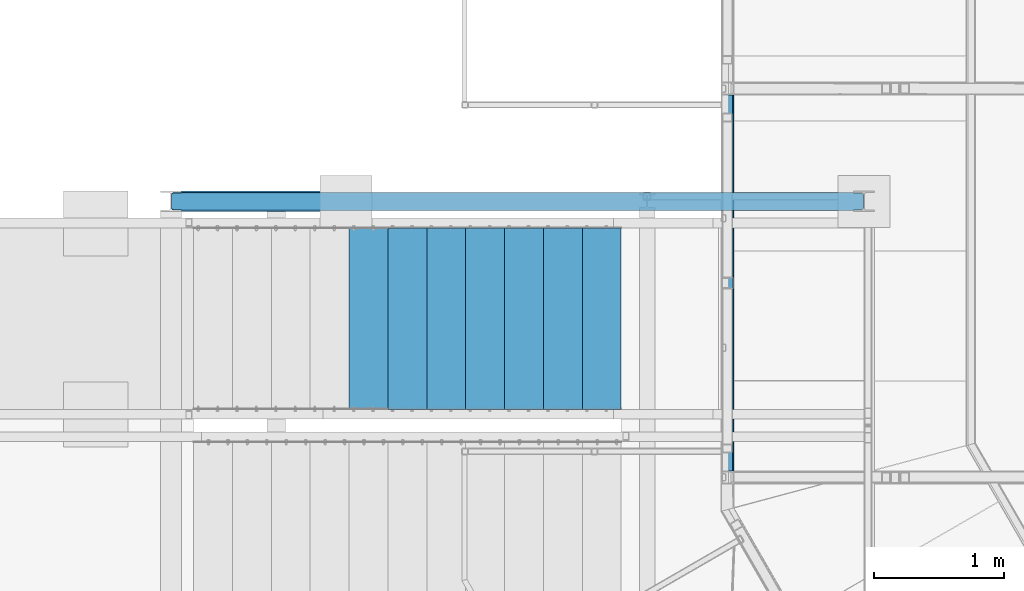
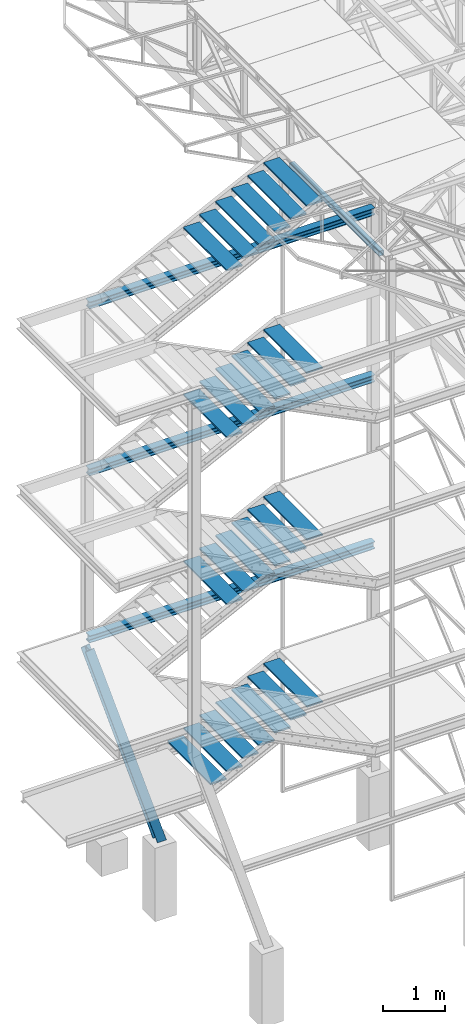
# One storey, part 40 of 132: 30 discrete accessories, 27 elements without a shape of their own.
"""IFC2X3 building model written with IfcOpenShell, lengths in millimetres."""

from ifc_helpers import new_model, si_unit, frame, origin_with_axes, origin_2d_with_axis, place, context, subcontext, project, spatial, polyline, hollow_rectangle, i_section, outline, extrude, boolean, clip, halfspace, material, type_object, element, aggregate, save


model = new_model("IFC2X3")

# Units and contexts
model_context = context("Model", 3, precision=1e-05, world=origin_with_axes())
body_context = subcontext(model_context, "Body", "Model", "MODEL_VIEW")
ifc_project = project(units=[si_unit("LENGTHUNIT", "METRE", prefix="MILLI"), si_unit("AREAUNIT", "SQUARE_METRE"), si_unit("VOLUMEUNIT", "CUBIC_METRE"), si_unit("MASSUNIT", "GRAM", prefix="KILO"), si_unit("TIMEUNIT", "SECOND"), si_unit("PLANEANGLEUNIT", "RADIAN"), si_unit("SOLIDANGLEUNIT", "STERADIAN"), si_unit("THERMODYNAMICTEMPERATUREUNIT", "DEGREE_CELSIUS"), si_unit("LUMINOUSINTENSITYUNIT", "LUMEN")], contexts=[model_context])

# Site, building, storey
site_placement = place(None, origin_with_axes())
site = spatial("IfcSite", under=ifc_project, at=site_placement, Name="Budowa", CompositionType="ELEMENT")
building_placement = place(site_placement, origin_with_axes())
building = spatial("IfcBuilding", under=site, at=building_placement, Name="Undefined", CompositionType="ELEMENT")
storey_placement = place(building_placement, origin_with_axes())
storey = spatial("IfcBuildingStorey", under=building, at=storey_placement, Name="Undefined", CompositionType="ELEMENT", Elevation=0.0)

# Assembly, discrete accessory
assembly_1_placement = place(storey_placement, origin_with_axes())
assembly_1 = element("IfcElementAssembly", 1, at=assembly_1_placement, inside=storey, Name="Steel Assembly", AssemblyPlace="NOTDEFINED", PredefinedType="RIGID_FRAME")
ifc_material_1 = material(Name="STEEL/S235")
discrete_accessory_type_1 = type_object("IfcDiscreteAccessoryType", Name="BEAM")
discrete_accessory_1_placement = place(assembly_1_placement, frame((0.0999999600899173, 11950.0000000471, 12830.0), z_axis=(1.0, 0.0, 0.0), x_axis=(0.0, -1.0, 0.0)))
discrete_accessory_1 = element("IfcDiscreteAccessory", 2, at=discrete_accessory_1_placement, type_object=discrete_accessory_type_1, material=ifc_material_1, Name="BEAM", ObjectType="SHS100*8", context=body_context, shape_type="SweptSolid", body=[
    extrude(hollow_rectangle(XDim=100.0, YDim=100.0, WallThickness=8.0, InnerFilletRadius=8.0, OuterFilletRadius=16.0, at=origin_2d_with_axis()), frame((2900.00000000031, 0.0, 0.0), z_axis=(-1.0, 0.0, 0.0), x_axis=(0.0, -1.0, 0.0)), (0.0, 0.0, 1.0), 2900.0),
])
aggregate(assembly_1, [discrete_accessory_1])

assembly_2_placement = place(storey_placement, origin_with_axes())
assembly_2 = element("IfcElementAssembly", 3, at=assembly_2_placement, inside=storey, Name="Steel Assembly", AssemblyPlace="NOTDEFINED", PredefinedType="RIGID_FRAME")
ifc_material_2 = material(Name="STEEL/S235JR")
discrete_accessory_type_2 = type_object("IfcDiscreteAccessoryType", Name="STOPNIE")
discrete_accessory_2_placement = place(assembly_2_placement, frame((-970.00000008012, 9525.0000000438, 13864.9999999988), z_axis=(0.0, 0.0, -1.0), x_axis=(0.0, 1.0, 0.0)))
discrete_accessory_2 = element("IfcDiscreteAccessory", 4, at=discrete_accessory_2_placement, type_object=discrete_accessory_type_2, material=ifc_material_2, Name="STOPNIE", ObjectType="PL30*300", context=body_context, shape_type="SweptSolid", body=[
    extrude(outline(polyline([(0.0, -150.0), (0.0, 150.0), (1400.0, 150.0), (1400.0, -150.0), (0.0, -150.0)])), frame((0.0, 0.0, -15.0), z_axis=(0.0, 0.0, 1.0), x_axis=(1.0, 0.0, 0.0)), (0.0, 0.0, 1.0), 30.0),
])
aggregate(assembly_2, [discrete_accessory_2])

assembly_3_placement = place(storey_placement, origin_with_axes())
assembly_3 = element("IfcElementAssembly", 5, at=assembly_3_placement, inside=storey, Name="Steel Assembly", AssemblyPlace="NOTDEFINED", PredefinedType="RIGID_FRAME")
discrete_accessory_3_placement = place(assembly_3_placement, frame((-1270.00000008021, 9525.0000000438, 13714.9999999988), z_axis=(0.0, 0.0, -1.0), x_axis=(0.0, 1.0, 0.0)))
discrete_accessory_3 = element("IfcDiscreteAccessory", 6, at=discrete_accessory_3_placement, type_object=discrete_accessory_type_2, material=ifc_material_2, Name="STOPNIE", ObjectType="PL30*300", context=body_context, shape_type="SweptSolid", body=[
    extrude(outline(polyline([(0.0, -150.0), (0.0, 150.0), (1400.0, 150.0), (1400.0, -150.0), (0.0, -150.0)])), frame((0.0, 0.0, -15.0), z_axis=(0.0, 0.0, 1.0), x_axis=(1.0, 0.0, 0.0)), (0.0, 0.0, 1.0), 30.0),
])
aggregate(assembly_3, [discrete_accessory_3])

assembly_4_placement = place(storey_placement, origin_with_axes())
assembly_4 = element("IfcElementAssembly", 7, at=assembly_4_placement, inside=storey, Name="Steel Assembly", AssemblyPlace="NOTDEFINED", PredefinedType="RIGID_FRAME")
discrete_accessory_4_placement = place(assembly_4_placement, frame((-1570.0000000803, 9525.0000000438, 13564.9999999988), z_axis=(0.0, 0.0, -1.0), x_axis=(0.0, 1.0, 0.0)))
discrete_accessory_4 = element("IfcDiscreteAccessory", 8, at=discrete_accessory_4_placement, type_object=discrete_accessory_type_2, material=ifc_material_2, Name="STOPNIE", ObjectType="PL30*300", context=body_context, shape_type="SweptSolid", body=[
    extrude(outline(polyline([(0.0, -150.0), (0.0, 150.0), (1400.0, 150.0), (1400.0, -150.0), (0.0, -150.0)])), frame((0.0, 0.0, -15.0), z_axis=(0.0, 0.0, 1.0), x_axis=(1.0, 0.0, 0.0)), (0.0, 0.0, 1.0), 30.0),
])
aggregate(assembly_4, [discrete_accessory_4])

assembly_5_placement = place(storey_placement, origin_with_axes())
assembly_5 = element("IfcElementAssembly", 9, at=assembly_5_placement, inside=storey, Name="Steel Assembly", AssemblyPlace="NOTDEFINED", PredefinedType="RIGID_FRAME")
discrete_accessory_5_placement = place(assembly_5_placement, frame((-1870.00000008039, 9525.0000000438, 13414.9999999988), z_axis=(0.0, 0.0, -1.0), x_axis=(0.0, 1.0, 0.0)))
discrete_accessory_5 = element("IfcDiscreteAccessory", 10, at=discrete_accessory_5_placement, type_object=discrete_accessory_type_2, material=ifc_material_2, Name="STOPNIE", ObjectType="PL30*300", context=body_context, shape_type="SweptSolid", body=[
    extrude(outline(polyline([(0.0, -150.0), (0.0, 150.0), (1400.0, 150.0), (1400.0, -150.0), (0.0, -150.0)])), frame((0.0, 0.0, -15.0), z_axis=(0.0, 0.0, 1.0), x_axis=(1.0, 0.0, 0.0)), (0.0, 0.0, 1.0), 30.0),
])
aggregate(assembly_5, [discrete_accessory_5])

assembly_6_placement = place(storey_placement, origin_with_axes())
assembly_6 = element("IfcElementAssembly", 11, at=assembly_6_placement, inside=storey, Name="Steel Assembly", AssemblyPlace="NOTDEFINED", PredefinedType="RIGID_FRAME")
discrete_accessory_6_placement = place(assembly_6_placement, frame((-2170.00000008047, 9525.0000000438, 13264.9999999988), z_axis=(0.0, 0.0, -1.0), x_axis=(0.0, 1.0, 0.0)))
discrete_accessory_6 = element("IfcDiscreteAccessory", 12, at=discrete_accessory_6_placement, type_object=discrete_accessory_type_2, material=ifc_material_2, Name="STOPNIE", ObjectType="PL30*300", context=body_context, shape_type="SweptSolid", body=[
    extrude(outline(polyline([(0.0, -150.0), (0.0, 150.0), (1400.0, 150.0), (1400.0, -150.0), (0.0, -150.0)])), frame((0.0, 0.0, -15.0), z_axis=(0.0, 0.0, 1.0), x_axis=(1.0, 0.0, 0.0)), (0.0, 0.0, 1.0), 30.0),
])
aggregate(assembly_6, [discrete_accessory_6])

assembly_7_placement = place(storey_placement, origin_with_axes())
assembly_7 = element("IfcElementAssembly", 13, at=assembly_7_placement, inside=storey, Name="Steel Assembly", AssemblyPlace="NOTDEFINED", PredefinedType="RIGID_FRAME")
discrete_accessory_7_placement = place(assembly_7_placement, frame((-2470.00000008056, 9525.0000000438, 13114.9999999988), z_axis=(0.0, 0.0, -1.0), x_axis=(0.0, 1.0, 0.0)))
discrete_accessory_7 = element("IfcDiscreteAccessory", 14, at=discrete_accessory_7_placement, type_object=discrete_accessory_type_2, material=ifc_material_2, Name="STOPNIE", ObjectType="PL30*300", context=body_context, shape_type="SweptSolid", body=[
    extrude(outline(polyline([(0.0, -150.0), (0.0, 150.0), (1400.0, 150.0), (1400.0, -150.0), (0.0, -150.0)])), frame((0.0, 0.0, -15.0), z_axis=(0.0, 0.0, 1.0), x_axis=(1.0, 0.0, 0.0)), (0.0, 0.0, 1.0), 30.0),
])
aggregate(assembly_7, [discrete_accessory_7])

assembly_8_placement = place(storey_placement, origin_with_axes())
assembly_8 = element("IfcElementAssembly", 15, at=assembly_8_placement, inside=storey, Name="Steel Assembly", AssemblyPlace="NOTDEFINED", PredefinedType="RIGID_FRAME")
discrete_accessory_8_placement = place(assembly_8_placement, frame((-970.000000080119, 9525.0000000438, 10564.9999999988), z_axis=(0.0, 0.0, -1.0), x_axis=(0.0, 1.0, 0.0)))
discrete_accessory_8 = element("IfcDiscreteAccessory", 16, at=discrete_accessory_8_placement, type_object=discrete_accessory_type_2, material=ifc_material_2, Name="STOPNIE", ObjectType="PL30*300", context=body_context, shape_type="SweptSolid", body=[
    extrude(outline(polyline([(0.0, -150.0), (0.0, 150.0), (1400.0, 150.0), (1400.0, -150.0), (0.0, -150.0)])), frame((0.0, 0.0, -15.0), z_axis=(0.0, 0.0, 1.0), x_axis=(1.0, 0.0, 0.0)), (0.0, 0.0, 1.0), 30.0),
])
aggregate(assembly_8, [discrete_accessory_8])

assembly_9_placement = place(storey_placement, origin_with_axes())
assembly_9 = element("IfcElementAssembly", 17, at=assembly_9_placement, inside=storey, Name="Steel Assembly", AssemblyPlace="NOTDEFINED", PredefinedType="RIGID_FRAME")
discrete_accessory_9_placement = place(assembly_9_placement, frame((-1270.00000008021, 9525.0000000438, 10414.9999999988), z_axis=(0.0, 0.0, -1.0), x_axis=(0.0, 1.0, 0.0)))
discrete_accessory_9 = element("IfcDiscreteAccessory", 18, at=discrete_accessory_9_placement, type_object=discrete_accessory_type_2, material=ifc_material_2, Name="STOPNIE", ObjectType="PL30*300", context=body_context, shape_type="SweptSolid", body=[
    extrude(outline(polyline([(0.0, -150.0), (0.0, 150.0), (1400.0, 150.0), (1400.0, -150.0), (0.0, -150.0)])), frame((0.0, 0.0, -15.0), z_axis=(0.0, 0.0, 1.0), x_axis=(1.0, 0.0, 0.0)), (0.0, 0.0, 1.0), 30.0),
])
aggregate(assembly_9, [discrete_accessory_9])

assembly_10_placement = place(storey_placement, origin_with_axes())
assembly_10 = element("IfcElementAssembly", 19, at=assembly_10_placement, inside=storey, Name="Steel Assembly", AssemblyPlace="NOTDEFINED", PredefinedType="RIGID_FRAME")
discrete_accessory_10_placement = place(assembly_10_placement, frame((-1570.0000000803, 9525.0000000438, 10264.9999999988), z_axis=(0.0, 0.0, -1.0), x_axis=(0.0, 1.0, 0.0)))
discrete_accessory_10 = element("IfcDiscreteAccessory", 20, at=discrete_accessory_10_placement, type_object=discrete_accessory_type_2, material=ifc_material_2, Name="STOPNIE", ObjectType="PL30*300", context=body_context, shape_type="SweptSolid", body=[
    extrude(outline(polyline([(0.0, -150.0), (0.0, 150.0), (1400.0, 150.0), (1400.0, -150.0), (0.0, -150.0)])), frame((0.0, 0.0, -15.0), z_axis=(0.0, 0.0, 1.0), x_axis=(1.0, 0.0, 0.0)), (0.0, 0.0, 1.0), 30.0),
])
aggregate(assembly_10, [discrete_accessory_10])

assembly_11_placement = place(storey_placement, origin_with_axes())
assembly_11 = element("IfcElementAssembly", 21, at=assembly_11_placement, inside=storey, Name="Steel Assembly", AssemblyPlace="NOTDEFINED", PredefinedType="RIGID_FRAME")
discrete_accessory_11_placement = place(assembly_11_placement, frame((-1870.00000008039, 9525.0000000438, 10114.9999999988), z_axis=(0.0, 0.0, -1.0), x_axis=(0.0, 1.0, 0.0)))
discrete_accessory_11 = element("IfcDiscreteAccessory", 22, at=discrete_accessory_11_placement, type_object=discrete_accessory_type_2, material=ifc_material_2, Name="STOPNIE", ObjectType="PL30*300", context=body_context, shape_type="SweptSolid", body=[
    extrude(outline(polyline([(0.0, -150.0), (0.0, 150.0), (1400.0, 150.0), (1400.0, -150.0), (0.0, -150.0)])), frame((0.0, 0.0, -15.0), z_axis=(0.0, 0.0, 1.0), x_axis=(1.0, 0.0, 0.0)), (0.0, 0.0, 1.0), 30.0),
])
aggregate(assembly_11, [discrete_accessory_11])

assembly_12_placement = place(storey_placement, origin_with_axes())
assembly_12 = element("IfcElementAssembly", 23, at=assembly_12_placement, inside=storey, Name="Steel Assembly", AssemblyPlace="NOTDEFINED", PredefinedType="RIGID_FRAME")
discrete_accessory_12_placement = place(assembly_12_placement, frame((-2170.00000008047, 9525.0000000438, 9964.99999999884), z_axis=(0.0, 0.0, -1.0), x_axis=(0.0, 1.0, 0.0)))
discrete_accessory_12 = element("IfcDiscreteAccessory", 24, at=discrete_accessory_12_placement, type_object=discrete_accessory_type_2, material=ifc_material_2, Name="STOPNIE", ObjectType="PL30*300", context=body_context, shape_type="SweptSolid", body=[
    extrude(outline(polyline([(0.0, -150.0), (0.0, 150.0), (1400.0, 150.0), (1400.0, -150.0), (0.0, -150.0)])), frame((0.0, 0.0, -15.0), z_axis=(0.0, 0.0, 1.0), x_axis=(1.0, 0.0, 0.0)), (0.0, 0.0, 1.0), 30.0),
])
aggregate(assembly_12, [discrete_accessory_12])

assembly_13_placement = place(storey_placement, origin_with_axes())
assembly_13 = element("IfcElementAssembly", 25, at=assembly_13_placement, inside=storey, Name="Steel Assembly", AssemblyPlace="NOTDEFINED", PredefinedType="RIGID_FRAME")
discrete_accessory_13_placement = place(assembly_13_placement, frame((-2470.00000008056, 9525.0000000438, 9814.99999999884), z_axis=(0.0, 0.0, -1.0), x_axis=(0.0, 1.0, 0.0)))
discrete_accessory_13 = element("IfcDiscreteAccessory", 26, at=discrete_accessory_13_placement, type_object=discrete_accessory_type_2, material=ifc_material_2, Name="STOPNIE", ObjectType="PL30*300", context=body_context, shape_type="SweptSolid", body=[
    extrude(outline(polyline([(0.0, -150.0), (0.0, 150.0), (1400.0, 150.0), (1400.0, -150.0), (0.0, -150.0)])), frame((0.0, 0.0, -15.0), z_axis=(0.0, 0.0, 1.0), x_axis=(1.0, 0.0, 0.0)), (0.0, 0.0, 1.0), 30.0),
])
aggregate(assembly_13, [discrete_accessory_13])

assembly_14_placement = place(storey_placement, origin_with_axes())
assembly_14 = element("IfcElementAssembly", 27, at=assembly_14_placement, inside=storey, Name="Steel Assembly", AssemblyPlace="NOTDEFINED", PredefinedType="RIGID_FRAME")
discrete_accessory_14_placement = place(assembly_14_placement, frame((-970.000000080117, 9525.0000000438, 7264.99999999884), z_axis=(0.0, 0.0, -1.0), x_axis=(0.0, 1.0, 0.0)))
discrete_accessory_14 = element("IfcDiscreteAccessory", 28, at=discrete_accessory_14_placement, type_object=discrete_accessory_type_2, material=ifc_material_2, Name="STOPNIE", ObjectType="PL30*300", context=body_context, shape_type="SweptSolid", body=[
    extrude(outline(polyline([(0.0, -150.0), (0.0, 150.0), (1400.0, 150.0), (1400.0, -150.0), (0.0, -150.0)])), frame((0.0, 0.0, -15.0), z_axis=(0.0, 0.0, 1.0), x_axis=(1.0, 0.0, 0.0)), (0.0, 0.0, 1.0), 30.0),
])
aggregate(assembly_14, [discrete_accessory_14])

assembly_15_placement = place(storey_placement, origin_with_axes())
assembly_15 = element("IfcElementAssembly", 29, at=assembly_15_placement, inside=storey, Name="Steel Assembly", AssemblyPlace="NOTDEFINED", PredefinedType="RIGID_FRAME")
discrete_accessory_15_placement = place(assembly_15_placement, frame((-1270.00000008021, 9525.0000000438, 7114.99999999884), z_axis=(0.0, 0.0, -1.0), x_axis=(0.0, 1.0, 0.0)))
discrete_accessory_15 = element("IfcDiscreteAccessory", 30, at=discrete_accessory_15_placement, type_object=discrete_accessory_type_2, material=ifc_material_2, Name="STOPNIE", ObjectType="PL30*300", context=body_context, shape_type="SweptSolid", body=[
    extrude(outline(polyline([(0.0, -150.0), (0.0, 150.0), (1400.0, 150.0), (1400.0, -150.0), (0.0, -150.0)])), frame((0.0, 0.0, -15.0), z_axis=(0.0, 0.0, 1.0), x_axis=(1.0, 0.0, 0.0)), (0.0, 0.0, 1.0), 30.0),
])
aggregate(assembly_15, [discrete_accessory_15])

assembly_16_placement = place(storey_placement, origin_with_axes())
assembly_16 = element("IfcElementAssembly", 31, at=assembly_16_placement, inside=storey, Name="Steel Assembly", AssemblyPlace="NOTDEFINED", PredefinedType="RIGID_FRAME")
discrete_accessory_16_placement = place(assembly_16_placement, frame((-1570.00000008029, 9525.0000000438, 6964.99999999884), z_axis=(0.0, 0.0, -1.0), x_axis=(0.0, 1.0, 0.0)))
discrete_accessory_16 = element("IfcDiscreteAccessory", 32, at=discrete_accessory_16_placement, type_object=discrete_accessory_type_2, material=ifc_material_2, Name="STOPNIE", ObjectType="PL30*300", context=body_context, shape_type="SweptSolid", body=[
    extrude(outline(polyline([(0.0, -150.0), (0.0, 150.0), (1400.0, 150.0), (1400.0, -150.0), (0.0, -150.0)])), frame((0.0, 0.0, -15.0), z_axis=(0.0, 0.0, 1.0), x_axis=(1.0, 0.0, 0.0)), (0.0, 0.0, 1.0), 30.0),
])
aggregate(assembly_16, [discrete_accessory_16])

assembly_17_placement = place(storey_placement, origin_with_axes())
assembly_17 = element("IfcElementAssembly", 33, at=assembly_17_placement, inside=storey, Name="Steel Assembly", AssemblyPlace="NOTDEFINED", PredefinedType="RIGID_FRAME")
discrete_accessory_17_placement = place(assembly_17_placement, frame((-1870.00000008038, 9525.0000000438, 6814.99999999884), z_axis=(0.0, 0.0, -1.0), x_axis=(0.0, 1.0, 0.0)))
discrete_accessory_17 = element("IfcDiscreteAccessory", 34, at=discrete_accessory_17_placement, type_object=discrete_accessory_type_2, material=ifc_material_2, Name="STOPNIE", ObjectType="PL30*300", context=body_context, shape_type="SweptSolid", body=[
    extrude(outline(polyline([(0.0, -150.0), (0.0, 150.0), (1400.0, 150.0), (1400.0, -150.0), (0.0, -150.0)])), frame((0.0, 0.0, -15.0), z_axis=(0.0, 0.0, 1.0), x_axis=(1.0, 0.0, 0.0)), (0.0, 0.0, 1.0), 30.0),
])
aggregate(assembly_17, [discrete_accessory_17])

assembly_18_placement = place(storey_placement, origin_with_axes())
assembly_18 = element("IfcElementAssembly", 35, at=assembly_18_placement, inside=storey, Name="Steel Assembly", AssemblyPlace="NOTDEFINED", PredefinedType="RIGID_FRAME")
discrete_accessory_18_placement = place(assembly_18_placement, frame((-2170.00000008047, 9525.0000000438, 6664.99999999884), z_axis=(0.0, 0.0, -1.0), x_axis=(0.0, 1.0, 0.0)))
discrete_accessory_18 = element("IfcDiscreteAccessory", 36, at=discrete_accessory_18_placement, type_object=discrete_accessory_type_2, material=ifc_material_2, Name="STOPNIE", ObjectType="PL30*300", context=body_context, shape_type="SweptSolid", body=[
    extrude(outline(polyline([(0.0, -150.0), (0.0, 150.0), (1400.0, 150.0), (1400.0, -150.0), (0.0, -150.0)])), frame((0.0, 0.0, -15.0), z_axis=(0.0, 0.0, 1.0), x_axis=(1.0, 0.0, 0.0)), (0.0, 0.0, 1.0), 30.0),
])
aggregate(assembly_18, [discrete_accessory_18])

assembly_19_placement = place(storey_placement, origin_with_axes())
assembly_19 = element("IfcElementAssembly", 37, at=assembly_19_placement, inside=storey, Name="Steel Assembly", AssemblyPlace="NOTDEFINED", PredefinedType="RIGID_FRAME")
discrete_accessory_19_placement = place(assembly_19_placement, frame((-2470.00000008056, 9525.0000000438, 6514.99999999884), z_axis=(0.0, 0.0, -1.0), x_axis=(0.0, 1.0, 0.0)))
discrete_accessory_19 = element("IfcDiscreteAccessory", 38, at=discrete_accessory_19_placement, type_object=discrete_accessory_type_2, material=ifc_material_2, Name="STOPNIE", ObjectType="PL30*300", context=body_context, shape_type="SweptSolid", body=[
    extrude(outline(polyline([(0.0, -150.0), (0.0, 150.0), (1400.0, 150.0), (1400.0, -150.0), (0.0, -150.0)])), frame((0.0, 0.0, -15.0), z_axis=(0.0, 0.0, 1.0), x_axis=(1.0, 0.0, 0.0)), (0.0, 0.0, 1.0), 30.0),
])
aggregate(assembly_19, [discrete_accessory_19])

assembly_20_placement = place(storey_placement, origin_with_axes())
assembly_20 = element("IfcElementAssembly", 39, at=assembly_20_placement, inside=storey, Name="Steel Assembly", AssemblyPlace="NOTDEFINED", PredefinedType="RIGID_FRAME")
discrete_accessory_20_placement = place(assembly_20_placement, frame((-970.000000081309, 9525.0000000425, 3964.99999999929), z_axis=(0.0, 0.0, -1.0), x_axis=(0.0, 1.0, 0.0)))
discrete_accessory_20 = element("IfcDiscreteAccessory", 40, at=discrete_accessory_20_placement, type_object=discrete_accessory_type_2, material=ifc_material_2, Name="STOPNIE", ObjectType="PL30*300", context=body_context, shape_type="SweptSolid", body=[
    extrude(outline(polyline([(0.0, -150.0), (0.0, 150.0), (1400.0, 150.0), (1400.0, -150.0), (0.0, -150.0)])), frame((0.0, 0.0, -15.0), z_axis=(0.0, 0.0, 1.0), x_axis=(1.0, 0.0, 0.0)), (0.0, 0.0, 1.0), 30.0),
])
aggregate(assembly_20, [discrete_accessory_20])

assembly_21_placement = place(storey_placement, origin_with_axes())
assembly_21 = element("IfcElementAssembly", 41, at=assembly_21_placement, inside=storey, Name="Steel Assembly", AssemblyPlace="NOTDEFINED", PredefinedType="RIGID_FRAME")
discrete_accessory_21_placement = place(assembly_21_placement, frame((-1270.00000008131, 9525.00000004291, 3814.99999999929), z_axis=(0.0, 0.0, -1.0), x_axis=(0.0, 1.0, 0.0)))
discrete_accessory_21 = element("IfcDiscreteAccessory", 42, at=discrete_accessory_21_placement, type_object=discrete_accessory_type_2, material=ifc_material_2, Name="STOPNIE", ObjectType="PL30*300", context=body_context, shape_type="SweptSolid", body=[
    extrude(outline(polyline([(0.0, -150.0), (0.0, 150.0), (1400.0, 150.0), (1400.0, -150.0), (0.0, -150.0)])), frame((0.0, 0.0, -15.0), z_axis=(0.0, 0.0, 1.0), x_axis=(1.0, 0.0, 0.0)), (0.0, 0.0, 1.0), 30.0),
])
aggregate(assembly_21, [discrete_accessory_21])

assembly_22_placement = place(storey_placement, origin_with_axes())
assembly_22 = element("IfcElementAssembly", 43, at=assembly_22_placement, inside=storey, Name="Steel Assembly", AssemblyPlace="NOTDEFINED", PredefinedType="RIGID_FRAME")
discrete_accessory_22_placement = place(assembly_22_placement, frame((-1570.00000008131, 9525.00000004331, 3664.99999999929), z_axis=(0.0, 0.0, -1.0), x_axis=(0.0, 1.0, 0.0)))
discrete_accessory_22 = element("IfcDiscreteAccessory", 44, at=discrete_accessory_22_placement, type_object=discrete_accessory_type_2, material=ifc_material_2, Name="STOPNIE", ObjectType="PL30*300", context=body_context, shape_type="SweptSolid", body=[
    extrude(outline(polyline([(0.0, -150.0), (0.0, 150.0), (1400.0, 150.0), (1400.0, -150.0), (0.0, -150.0)])), frame((0.0, 0.0, -15.0), z_axis=(0.0, 0.0, 1.0), x_axis=(1.0, 0.0, 0.0)), (0.0, 0.0, 1.0), 30.0),
])
aggregate(assembly_22, [discrete_accessory_22])

assembly_23_placement = place(storey_placement, origin_with_axes())
assembly_23 = element("IfcElementAssembly", 45, at=assembly_23_placement, inside=storey, Name="Steel Assembly", AssemblyPlace="NOTDEFINED", PredefinedType="RIGID_FRAME")
discrete_accessory_23_placement = place(assembly_23_placement, frame((-1870.00000008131, 9525.00000004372, 3514.99999999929), z_axis=(0.0, 0.0, -1.0), x_axis=(0.0, 1.0, 0.0)))
discrete_accessory_23 = element("IfcDiscreteAccessory", 46, at=discrete_accessory_23_placement, type_object=discrete_accessory_type_2, material=ifc_material_2, Name="STOPNIE", ObjectType="PL30*300", context=body_context, shape_type="SweptSolid", body=[
    extrude(outline(polyline([(0.0, -150.0), (0.0, 150.0), (1400.0, 150.0), (1400.0, -150.0), (0.0, -150.0)])), frame((0.0, 0.0, -15.0), z_axis=(0.0, 0.0, 1.0), x_axis=(1.0, 0.0, 0.0)), (0.0, 0.0, 1.0), 30.0),
])
aggregate(assembly_23, [discrete_accessory_23])

assembly_24_placement = place(storey_placement, origin_with_axes())
assembly_24 = element("IfcElementAssembly", 47, at=assembly_24_placement, inside=storey, Name="Steel Assembly", AssemblyPlace="NOTDEFINED", PredefinedType="RIGID_FRAME")
discrete_accessory_24_placement = place(assembly_24_placement, frame((-2170.00000008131, 9525.00000004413, 3364.99999999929), z_axis=(0.0, 0.0, -1.0), x_axis=(0.0, 1.0, 0.0)))
discrete_accessory_24 = element("IfcDiscreteAccessory", 48, at=discrete_accessory_24_placement, type_object=discrete_accessory_type_2, material=ifc_material_2, Name="STOPNIE", ObjectType="PL30*300", context=body_context, shape_type="SweptSolid", body=[
    extrude(outline(polyline([(0.0, -150.0), (0.0, 150.0), (1400.0, 150.0), (1400.0, -150.0), (0.0, -150.0)])), frame((0.0, 0.0, -15.0), z_axis=(0.0, 0.0, 1.0), x_axis=(1.0, 0.0, 0.0)), (0.0, 0.0, 1.0), 30.0),
])
aggregate(assembly_24, [discrete_accessory_24])

assembly_25_placement = place(storey_placement, origin_with_axes())
assembly_25 = element("IfcElementAssembly", 49, at=assembly_25_placement, inside=storey, Name="Steel Assembly", AssemblyPlace="NOTDEFINED", PredefinedType="RIGID_FRAME")
discrete_accessory_25_placement = place(assembly_25_placement, frame((-2470.00000008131, 9525.00000004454, 3214.99999999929), z_axis=(0.0, 0.0, -1.0), x_axis=(0.0, 1.0, 0.0)))
discrete_accessory_25 = element("IfcDiscreteAccessory", 50, at=discrete_accessory_25_placement, type_object=discrete_accessory_type_2, material=ifc_material_2, Name="STOPNIE", ObjectType="PL30*300", context=body_context, shape_type="SweptSolid", body=[
    extrude(outline(polyline([(0.0, -150.0), (0.0, 150.0), (1400.0, 150.0), (1400.0, -150.0), (0.0, -150.0)])), frame((0.0, 0.0, -15.0), z_axis=(0.0, 0.0, 1.0), x_axis=(1.0, 0.0, 0.0)), (0.0, 0.0, 1.0), 30.0),
])
aggregate(assembly_25, [discrete_accessory_25])

assembly_26_placement = place(storey_placement, origin_with_axes())
assembly_26 = element("IfcElementAssembly", 51, at=assembly_26_placement, inside=storey, Name="Steel Assembly", AssemblyPlace="NOTDEFINED", PredefinedType="RIGID_FRAME")
discrete_accessory_26_placement = place(assembly_26_placement, frame((-2770.00000008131, 9525.00000004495, 3064.99999999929), z_axis=(0.0, 0.0, -1.0), x_axis=(0.0, 1.0, 0.0)))
discrete_accessory_26 = element("IfcDiscreteAccessory", 52, at=discrete_accessory_26_placement, type_object=discrete_accessory_type_2, material=ifc_material_2, Name="STOPNIE", ObjectType="PL30*300", context=body_context, shape_type="SweptSolid", body=[
    extrude(outline(polyline([(0.0, -150.0), (0.0, 150.0), (1400.0, 150.0), (1400.0, -150.0), (0.0, -150.0)])), frame((0.0, 0.0, -15.0), z_axis=(0.0, 0.0, 1.0), x_axis=(1.0, 0.0, 0.0)), (0.0, 0.0, 1.0), 30.0),
])
aggregate(assembly_26, [discrete_accessory_26])

# Assembly, discrete accessories
assembly_27_placement = place(storey_placement, origin_with_axes())
assembly_27 = element("IfcElementAssembly", 53, at=assembly_27_placement, inside=storey, Name="Steel Assembly", AssemblyPlace="NOTDEFINED", PredefinedType="RIGID_FRAME")
discrete_accessory_type_3 = type_object("IfcDiscreteAccessoryType", Name="COLUMN")
discrete_accessory_27_placement = place(assembly_27_placement, frame((-4215.00000008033, 11130.000000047, 12070.0), z_axis=(0.0, 0.0, 1.0), x_axis=(1.0, 0.0, 0.0)))
solid_1 = boolean("DIFFERENCE", boolean("DIFFERENCE", boolean("DIFFERENCE", boolean("DIFFERENCE", boolean("DIFFERENCE", boolean("DIFFERENCE", boolean("DIFFERENCE", boolean("DIFFERENCE", extrude(i_section(OverallWidth=140.0, OverallDepth=140.0, WebThickness=7.0, FlangeThickness=12.0, FilletRadius=12.0, at=origin_2d_with_axis()), frame((5265.0, 0.0, 0.0), z_axis=(-1.0, 0.0, 0.0), x_axis=(0.0, -1.0, 0.0)), (0.0, 0.0, 1.0), 5340.0), extrude(outline(polyline([(0.0, 0.0), (16.0, 0.0), (16.0, 10.8000001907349), (0.699999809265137, 26.1000003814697), (0.0, 26.1000003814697), (0.0, 0.0)])), frame((-86.0999999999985, -67.0, 75.0), z_axis=(0.0, 0.0, -1.0), x_axis=(0.0, 1.0, 0.0)), (0.0, 0.0, 1.0), 150.0)), extrude(outline(polyline([(0.0, 0.0), (16.0, 0.0), (16.0, 26.1000003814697), (15.3000001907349, 26.1000003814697), (0.0, 10.8000001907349), (0.0, 0.0)])), frame((-86.0999999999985, 51.0, 75.0), z_axis=(0.0, 0.0, -1.0), x_axis=(0.0, 1.0, 0.0)), (0.0, 0.0, 1.0), 150.0)), extrude(outline(polyline([(0.0, 0.0), (85.0, 0.0), (85.0, 14.0), (0.0, 14.0), (0.0, 0.0)])), frame((-84.9999999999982, 66.0, -80.0), z_axis=(0.0, 0.0, 1.0), x_axis=(1.0, 0.0, 0.0)), (0.0, 0.0, 1.0), 160.0)), extrude(outline(polyline([(0.0, 0.0), (85.0, 0.0), (85.0, 14.0), (0.0, 14.0), (0.0, 0.0)])), frame((-84.9999999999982, -66.0, 80.0), z_axis=(0.0, 0.0, -1.0), x_axis=(1.0, 0.0, 0.0)), (0.0, 0.0, 1.0), 160.0)), extrude(outline(polyline([(0.0, 0.0), (16.0, 0.0), (16.0, 10.8000001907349), (0.699999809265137, 26.1000003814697), (0.0, 26.1000003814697), (0.0, 0.0)])), frame((5276.1, 67.0, 75.0), z_axis=(0.0, 0.0, -1.0), x_axis=(0.0, -1.0, 0.0)), (0.0, 0.0, 1.0), 150.0)), extrude(outline(polyline([(0.0, 0.0), (16.0, 0.0), (16.0, 26.1000003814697), (15.3000001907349, 26.1000003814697), (0.0, 10.8000001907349), (0.0, 0.0)])), frame((5276.1, -51.0, 75.0), z_axis=(0.0, 0.0, -1.0), x_axis=(0.0, -1.0, 0.0)), (0.0, 0.0, 1.0), 150.0)), extrude(outline(polyline([(0.0, 0.0), (85.0, 0.0), (85.0, 14.0), (0.0, 14.0), (0.0, 0.0)])), frame((5275.0, -66.0, -80.0), z_axis=(0.0, 0.0, 1.0), x_axis=(-1.0, 0.0, 0.0)), (0.0, 0.0, 1.0), 160.0)), extrude(outline(polyline([(0.0, 0.0), (85.0, 0.0), (85.0, 14.0), (0.0, 14.0), (0.0, 0.0)])), frame((5275.0, 66.0, 80.0), z_axis=(0.0, 0.0, -1.0), x_axis=(-1.0, 0.0, 0.0)), (0.0, 0.0, 1.0), 160.0))
discrete_accessory_27 = element("IfcDiscreteAccessory", 54, at=discrete_accessory_27_placement, type_object=discrete_accessory_type_3, material=ifc_material_1, Name="COLUMN", ObjectType="HEB140", context=body_context, shape_type="CSG", body=[
    boolean("DIFFERENCE", boolean("DIFFERENCE", solid_1, halfspace(frame((5265.0, 70.0, 1070.0), z_axis=(1.0, 0.0, 0.0), x_axis=(0.0, 1.0, 0.0)), False)), halfspace(frame((-74.9999999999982, -70.0, 1070.0), z_axis=(-1.0, 0.0, 0.0), x_axis=(0.0, -1.0, 0.0)), False)),
])
discrete_accessory_28_placement = place(assembly_27_placement, frame((-4215.00000008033, 11130.000000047, 8770.0), z_axis=(0.0, 0.0, 1.0), x_axis=(1.0, 0.0, 0.0)))
solid_2 = boolean("DIFFERENCE", boolean("DIFFERENCE", boolean("DIFFERENCE", boolean("DIFFERENCE", boolean("DIFFERENCE", boolean("DIFFERENCE", boolean("DIFFERENCE", boolean("DIFFERENCE", extrude(i_section(OverallWidth=140.0, OverallDepth=140.0, WebThickness=7.0, FlangeThickness=12.0, FilletRadius=12.0, at=origin_2d_with_axis()), frame((5265.0, 0.0, 0.0), z_axis=(-1.0, 0.0, 0.0), x_axis=(0.0, -1.0, 0.0)), (0.0, 0.0, 1.0), 5340.0), extrude(outline(polyline([(0.0, 0.0), (16.0, 0.0), (16.0, 10.8000001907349), (0.699999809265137, 26.1000003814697), (0.0, 26.1000003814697), (0.0, 0.0)])), frame((-86.0999999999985, -67.0, 75.0), z_axis=(0.0, 0.0, -1.0), x_axis=(0.0, 1.0, 0.0)), (0.0, 0.0, 1.0), 150.0)), extrude(outline(polyline([(0.0, 0.0), (16.0, 0.0), (16.0, 26.1000003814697), (15.3000001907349, 26.1000003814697), (0.0, 10.8000001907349), (0.0, 0.0)])), frame((-86.0999999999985, 51.0, 75.0), z_axis=(0.0, 0.0, -1.0), x_axis=(0.0, 1.0, 0.0)), (0.0, 0.0, 1.0), 150.0)), extrude(outline(polyline([(0.0, 0.0), (85.0, 0.0), (85.0, 14.0), (0.0, 14.0), (0.0, 0.0)])), frame((-84.9999999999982, 66.0, -80.0), z_axis=(0.0, 0.0, 1.0), x_axis=(1.0, 0.0, 0.0)), (0.0, 0.0, 1.0), 160.0)), extrude(outline(polyline([(0.0, 0.0), (85.0, 0.0), (85.0, 14.0), (0.0, 14.0), (0.0, 0.0)])), frame((-84.9999999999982, -66.0, 80.0), z_axis=(0.0, 0.0, -1.0), x_axis=(1.0, 0.0, 0.0)), (0.0, 0.0, 1.0), 160.0)), extrude(outline(polyline([(0.0, 0.0), (16.0, 0.0), (16.0, 10.8000001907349), (0.699999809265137, 26.1000003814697), (0.0, 26.1000003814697), (0.0, 0.0)])), frame((5276.1, 67.0, 75.0), z_axis=(0.0, 0.0, -1.0), x_axis=(0.0, -1.0, 0.0)), (0.0, 0.0, 1.0), 150.0)), extrude(outline(polyline([(0.0, 0.0), (16.0, 0.0), (16.0, 26.1000003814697), (15.3000001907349, 26.1000003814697), (0.0, 10.8000001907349), (0.0, 0.0)])), frame((5276.1, -51.0, 75.0), z_axis=(0.0, 0.0, -1.0), x_axis=(0.0, -1.0, 0.0)), (0.0, 0.0, 1.0), 150.0)), extrude(outline(polyline([(0.0, 0.0), (85.0, 0.0), (85.0, 14.0), (0.0, 14.0), (0.0, 0.0)])), frame((5275.0, -66.0, -80.0), z_axis=(0.0, 0.0, 1.0), x_axis=(-1.0, 0.0, 0.0)), (0.0, 0.0, 1.0), 160.0)), extrude(outline(polyline([(0.0, 0.0), (85.0, 0.0), (85.0, 14.0), (0.0, 14.0), (0.0, 0.0)])), frame((5275.0, 66.0, 80.0), z_axis=(0.0, 0.0, -1.0), x_axis=(-1.0, 0.0, 0.0)), (0.0, 0.0, 1.0), 160.0))
discrete_accessory_28 = element("IfcDiscreteAccessory", 55, at=discrete_accessory_28_placement, type_object=discrete_accessory_type_3, material=ifc_material_1, Name="COLUMN", ObjectType="HEB140", context=body_context, shape_type="CSG", body=[
    boolean("DIFFERENCE", boolean("DIFFERENCE", solid_2, halfspace(frame((5265.0, 70.0, 1070.0), z_axis=(1.0, 0.0, 0.0), x_axis=(0.0, 1.0, 0.0)), False)), halfspace(frame((-74.9999999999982, -70.0, 1070.0), z_axis=(-1.0, 0.0, 0.0), x_axis=(0.0, -1.0, 0.0)), False)),
])
discrete_accessory_29_placement = place(assembly_27_placement, frame((-4215.00000008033, 11130.000000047, 5470.0), z_axis=(0.0, 0.0, 1.0), x_axis=(1.0, 0.0, 0.0)))
solid_3 = boolean("DIFFERENCE", boolean("DIFFERENCE", boolean("DIFFERENCE", boolean("DIFFERENCE", boolean("DIFFERENCE", boolean("DIFFERENCE", boolean("DIFFERENCE", boolean("DIFFERENCE", extrude(i_section(OverallWidth=140.0, OverallDepth=140.0, WebThickness=7.0, FlangeThickness=12.0, FilletRadius=12.0, at=origin_2d_with_axis()), frame((5265.0, 0.0, 0.0), z_axis=(-1.0, 0.0, 0.0), x_axis=(0.0, -1.0, 0.0)), (0.0, 0.0, 1.0), 5340.0), extrude(outline(polyline([(0.0, 0.0), (16.0, 0.0), (16.0, 10.8000001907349), (0.699999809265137, 26.1000003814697), (0.0, 26.1000003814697), (0.0, 0.0)])), frame((-86.0999999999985, -67.0, 75.0), z_axis=(0.0, 0.0, -1.0), x_axis=(0.0, 1.0, 0.0)), (0.0, 0.0, 1.0), 150.0)), extrude(outline(polyline([(0.0, 0.0), (16.0, 0.0), (16.0, 26.1000003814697), (15.3000001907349, 26.1000003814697), (0.0, 10.8000001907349), (0.0, 0.0)])), frame((-86.0999999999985, 51.0, 75.0), z_axis=(0.0, 0.0, -1.0), x_axis=(0.0, 1.0, 0.0)), (0.0, 0.0, 1.0), 150.0)), extrude(outline(polyline([(0.0, 0.0), (85.0, 0.0), (85.0, 14.0), (0.0, 14.0), (0.0, 0.0)])), frame((-84.9999999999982, 66.0, -80.0), z_axis=(0.0, 0.0, 1.0), x_axis=(1.0, 0.0, 0.0)), (0.0, 0.0, 1.0), 160.0)), extrude(outline(polyline([(0.0, 0.0), (85.0, 0.0), (85.0, 14.0), (0.0, 14.0), (0.0, 0.0)])), frame((-84.9999999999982, -66.0, 80.0), z_axis=(0.0, 0.0, -1.0), x_axis=(1.0, 0.0, 0.0)), (0.0, 0.0, 1.0), 160.0)), extrude(outline(polyline([(0.0, 0.0), (16.0, 0.0), (16.0, 10.8000001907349), (0.699999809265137, 26.1000003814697), (0.0, 26.1000003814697), (0.0, 0.0)])), frame((5276.1, 67.0, 75.0), z_axis=(0.0, 0.0, -1.0), x_axis=(0.0, -1.0, 0.0)), (0.0, 0.0, 1.0), 150.0)), extrude(outline(polyline([(0.0, 0.0), (16.0, 0.0), (16.0, 26.1000003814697), (15.3000001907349, 26.1000003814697), (0.0, 10.8000001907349), (0.0, 0.0)])), frame((5276.1, -51.0, 75.0), z_axis=(0.0, 0.0, -1.0), x_axis=(0.0, -1.0, 0.0)), (0.0, 0.0, 1.0), 150.0)), extrude(outline(polyline([(0.0, 0.0), (85.0, 0.0), (85.0, 14.0), (0.0, 14.0), (0.0, 0.0)])), frame((5275.0, -66.0, -80.0), z_axis=(0.0, 0.0, 1.0), x_axis=(-1.0, 0.0, 0.0)), (0.0, 0.0, 1.0), 160.0)), extrude(outline(polyline([(0.0, 0.0), (85.0, 0.0), (85.0, 14.0), (0.0, 14.0), (0.0, 0.0)])), frame((5275.0, 66.0, 80.0), z_axis=(0.0, 0.0, -1.0), x_axis=(-1.0, 0.0, 0.0)), (0.0, 0.0, 1.0), 160.0))
discrete_accessory_29 = element("IfcDiscreteAccessory", 56, at=discrete_accessory_29_placement, type_object=discrete_accessory_type_3, material=ifc_material_1, Name="COLUMN", ObjectType="HEB140", context=body_context, shape_type="CSG", body=[
    boolean("DIFFERENCE", boolean("DIFFERENCE", solid_3, halfspace(frame((5265.0, 70.0, 1070.0), z_axis=(1.0, 0.0, 0.0), x_axis=(0.0, 1.0, 0.0)), False)), halfspace(frame((-74.9999999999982, -70.0, 1070.0), z_axis=(-1.0, 0.0, 0.0), x_axis=(0.0, -1.0, 0.0)), False)),
])
discrete_accessory_30_placement = place(assembly_27_placement, frame((-4295.00000008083, 11130.000000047, 5270.0), z_axis=(0.0, -1.0, 0.0), x_axis=(0.302740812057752, 0.0, -0.953072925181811)))
discrete_accessory_30 = element("IfcDiscreteAccessory", 57, at=discrete_accessory_30_placement, type_object=discrete_accessory_type_3, material=ifc_material_1, Name="COLUMN", ObjectType="HEB160", context=body_context, shape_type="Clipping", body=[
    clip(clip(extrude(i_section(OverallWidth=160.0, OverallDepth=160.0, WebThickness=8.0, FlangeThickness=13.0, FilletRadius=15.0, at=origin_2d_with_axis()), frame((4521.32422639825, -2.50983912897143e-13, 1.81898940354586e-12), z_axis=(-1.0, 0.0, 0.0), x_axis=(0.0, -1.0, 0.0)), (0.0, 0.0, 1.0), 4583.39), halfspace(frame((4461.18332359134, 6.05481624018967, 1000.0), z_axis=(-0.953072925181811, 0.302740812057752, 0.0), x_axis=(-0.302740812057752, -0.953072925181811, 0.0)), True)), halfspace(frame((12.4005942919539, 80.0000000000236, 1.81898940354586e-12), z_axis=(-0.988198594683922, 0.153178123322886, 0.0), x_axis=(0.0, 0.0, 1.0)), False)),
])
aggregate(assembly_27, [discrete_accessory_27, discrete_accessory_28, discrete_accessory_29, discrete_accessory_30])

save(model, "model.ifc")
